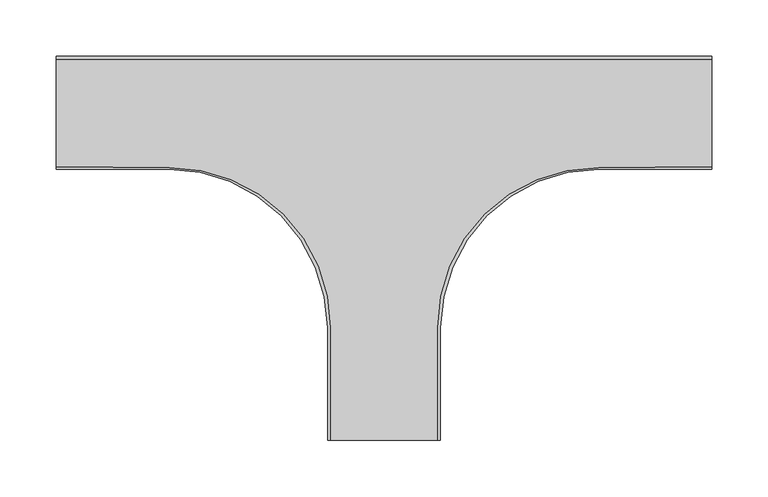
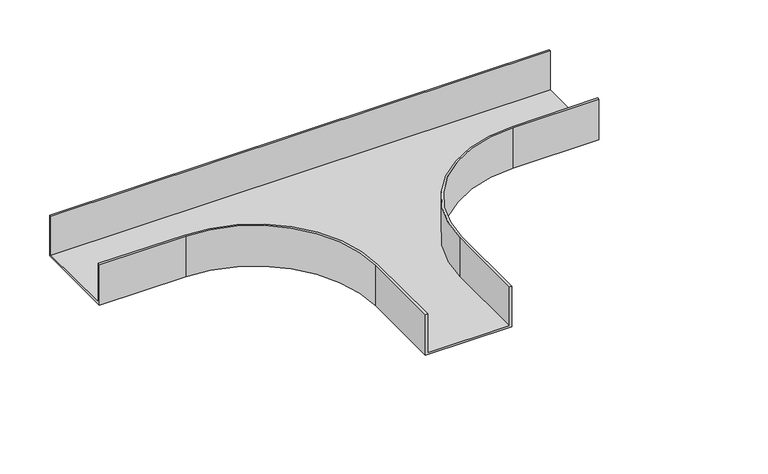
"""IFC4 building model written with IfcOpenShell, lengths in millimetres: cable carrier fitting geometry, BAKS_Tee_TKZ : TKZPH50."""

from ifc_helpers import new_model, si_unit, frame, origin, place, context, project, spatial, polyline, circle_curve, source, transform, mapped, element, save
from ifc_brep_helpers import plane_surface, cylinder_surface, revolved_surface, advanced_brep


def cable_carrier_fitting_cc7a867a(model_context):
    return source(origin(), model_context, "Body", "AdvancedBrep", [
        advanced_brep(
        [(-50.0, -190.0, 25.0), (-50.0, -290.0, 25.0), (-47.46, -290.0, 25.0), (-47.46, -190.0, 25.0), (-190.0, -48.503822, 25.0), (-290.0, -47.46, 25.0), (-290.0, -50.0, 25.0), (-190.0, -50.0, 25.0), (50.0, -190.0, 25.0), (190.0, -50.0, 25.0), (290.0, -50.0, 25.0), (290.0, -47.46, 25.0), (190.0, -48.503822, 25.0), (47.46, -190.0, 25.0), (47.46, -290.0, 25.0), (50.0, -290.0, 25.0), (290.0, 50.0, 25.0), (-290.0, 50.0, 25.0), (-290.0, 47.46, 25.0), (290.0, 47.46, 25.0), (-50.0, -190.0, -25.0), (-190.0, -50.0, -25.0), (-290.0, -50.0, -25.0), (-290.0, 50.0, -25.0), (290.0, 50.0, -25.0), (290.0, -50.0, -25.0), (190.0, -50.0, -25.0), (50.0, -190.0, -25.0), (50.0, -290.0, -25.0), (-50.0, -290.0, -25.0), (-50.0, -190.0, -22.46), (47.46, -290.0, -22.46), (-47.46, -290.0, -22.46), (-47.46, -190.0, -22.46), (-190.0, -48.503822, -22.46), (-290.0, -47.46, -22.46), (-290.0, 47.46, -22.46), (-190.0, -50.0, -22.46), (50.0, -190.0, -22.46), (190.0, -50.0, -22.46), (290.0, 47.46, -22.46), (290.0, -47.46, -22.46), (190.0, -48.503822, -22.46), (47.46, -190.0, -22.46)],
        [
            (0, 1),
            (1, 2),
            (2, 3),
            (3, 4, circle_curve(frame((-188.96, -190.0, 25.0), z_axis=(0.0, 0.0, 1.0), x_axis=(1.0, 0.0, 0.0)), 141.5)),
            (4, 5),
            (5, 6),
            (6, 7),
            (7, 0, circle_curve(frame((-190.0, -190.0, 25.0), z_axis=(0.0, 0.0, -1.0), x_axis=(1.0, 0.0, 0.0)), 140.0)),
            (8, 9, circle_curve(frame((190.0, -190.0, 25.0), z_axis=(0.0, 0.0, -1.0), x_axis=(1.0, 0.0, 0.0)), 140.0)),
            (9, 10),
            (10, 11),
            (11, 12),
            (12, 13, circle_curve(frame((188.96, -190.0, 25.0), z_axis=(0.0, 0.0, 1.0), x_axis=(1.0, 0.0, 0.0)), 141.5)),
            (13, 14),
            (14, 15),
            (15, 8),
            (16, 17),
            (17, 18),
            (18, 19),
            (19, 16),
            (20, 21, circle_curve(frame((-190.0, -190.0, -25.0), z_axis=(0.0, 0.0, 1.0), x_axis=(1.0, 0.0, 0.0)), 140.0)),
            (21, 22),
            (22, 23),
            (23, 24),
            (24, 25),
            (25, 26),
            (26, 27, circle_curve(frame((190.0, -190.0, -25.0), z_axis=(0.0, 0.0, 1.0), x_axis=(1.0, 0.0, 0.0)), 140.0)),
            (27, 28),
            (28, 29),
            (29, 20),
            (29, 1),
            (0, 30),
            (30, 20),
            (28, 15),
            (14, 31),
            (31, 32),
            (32, 2),
            (32, 33),
            (33, 3),
            (33, 34, circle_curve(frame((-188.96, -190.0, -22.46), z_axis=(0.0, 0.0, 1.0), x_axis=(1.0, 0.0, 0.0)), 141.5)),
            (34, 4),
            (34, 35),
            (35, 5),
            (35, 36),
            (36, 18),
            (17, 23),
            (22, 6),
            (21, 37),
            (37, 7),
            (8, 38),
            (38, 27),
            (26, 39),
            (39, 9),
            (25, 10),
            (24, 16),
            (19, 40),
            (40, 41),
            (41, 11),
            (41, 42),
            (42, 12),
            (42, 43, circle_curve(frame((188.96, -190.0, -22.46), z_axis=(0.0, 0.0, 1.0), x_axis=(1.0, 0.0, 0.0)), 141.5)),
            (43, 13),
            (43, 31),
            (36, 40),
        ],
        [
            plane_surface(frame((-50.0, -190.0, 25.0), z_axis=(0.0, 0.0, 1.0), x_axis=(0.0, -1.0, 0.0))),
            plane_surface(frame((-50.0, -190.0, -25.0), z_axis=(0.0, 0.0, -1.0), x_axis=(0.0, 1.0, 0.0))),
            plane_surface(frame((-50.0, -190.0, 25.0), z_axis=(-1.0, 0.0, 0.0), x_axis=(0.0, 0.0, -1.0))),
            plane_surface(frame((-50.0, -290.0, 25.0), z_axis=(0.0, -1.0, 0.0), x_axis=(0.0, 0.0, -1.0))),
            plane_surface(frame((-47.46, -290.0, 25.0), z_axis=(1.0, 0.0, 0.0), x_axis=(0.0, 0.0, -1.0))),
            cylinder_surface(frame((-188.96, -190.0, -25.0), z_axis=(0.0, 0.0, 1.0), x_axis=(1.0, 0.0, 0.0)), 141.5),
            plane_surface(frame((-190.0, -48.503822, 25.0), z_axis=(0.010437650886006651, 0.9999455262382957, 0.0), x_axis=(0.0, 0.0, -1.0))),
            plane_surface(frame((-290.0, -47.46, 25.0), z_axis=(-1.0, 0.0, 0.0), x_axis=(0.0, 0.0, -1.0))),
            plane_surface(frame((-290.0, -50.0, 25.0), z_axis=(0.0, -1.0, 0.0), x_axis=(0.0, 0.0, -1.0))),
            revolved_surface(polyline([(-50.0, -190.0, -25.0), (-50.0, -190.0, 25.0)]), (-190.0, -190.0, -25.0), (0.0, 0.0, -1.0)),
            revolved_surface(polyline([(330.0, -190.0, -25.0), (330.0, -190.0, 25.0)]), (190.0, -190.0, 0.0), (0.0, 0.0, -1.0)),
            plane_surface(frame((190.0, -50.0, 25.0), z_axis=(0.0, -1.0, 0.0), x_axis=(0.0, 0.0, -1.0))),
            plane_surface(frame((290.0, -50.0, 25.0), z_axis=(1.0, 0.0, 0.0), x_axis=(0.0, 0.0, -1.0))),
            plane_surface(frame((290.0, -47.46, 25.0), z_axis=(-0.010437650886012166, 0.9999455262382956, 0.0), x_axis=(0.0, 0.0, -1.0))),
            cylinder_surface(frame((188.96, -190.0, 0.0), z_axis=(0.0, 0.0, 1.0), x_axis=(1.0, 0.0, 0.0)), 141.5),
            plane_surface(frame((47.46, -190.0, 25.0), z_axis=(-1.0, 0.0, 0.0), x_axis=(0.0, 0.0, -1.0))),
            plane_surface(frame((50.0, -290.0, 25.0), z_axis=(1.0, 0.0, 0.0), x_axis=(0.0, 0.0, -1.0))),
            plane_surface(frame((290.0, 50.0, 25.0), z_axis=(0.0, 1.0, 0.0), x_axis=(0.0, 0.0, -1.0))),
            plane_surface(frame((-290.0, 47.46, 25.0), z_axis=(0.0, -1.0, 0.0), x_axis=(0.0, 0.0, -1.0))),
            plane_surface(frame((-50.0, -190.0, -22.46), z_axis=(0.0, 0.0, 1.0), x_axis=(0.0, -1.0, 0.0))),
        ],
        [
            (0, [[1, 2, 3, 4, 5, 6, 7, 8]]),
            (0, [[9, 10, 11, 12, 13, 14, 15, 16]]),
            (0, [[17, 18, 19, 20]]),
            (1, [[21, 22, 23, 24, 25, 26, 27, 28, 29, 30]]),
            (2, [[31, -1, 32, 33, -30]]),
            (3, [[-2, -31, -29, 34, -15, 35, 36, 37]]),
            (4, [[-3, -37, 38, 39]]),
            (5, [[-4, -39, 40, 41]]),
            (6, [[-5, -41, 42, 43]]),
            (7, [[-6, -43, 44, 45, -18, 46, -23, 47]]),
            (8, [[-7, -47, -22, 48, 49]]),
            (9, [[-8, -49, -48, -21, -33, -32]]),
            (10, [[-9, 50, 51, -27, 52, 53]]),
            (11, [[54, -10, -53, -52, -26]]),
            (12, [[-11, -54, -25, 55, -20, 56, 57, 58]]),
            (13, [[-12, -58, 59, 60]]),
            (14, [[-13, -60, 61, 62]]),
            (15, [[-14, -62, 63, -35]]),
            (16, [[-16, -34, -28, -51, -50]]),
            (17, [[-46, -17, -55, -24]]),
            (18, [[-19, -45, 64, -56]]),
            (19, [[-36, -63, -61, -59, -57, -64, -44, -42, -40, -38]]),
        ],
    ),
    ])


if __name__ == "__main__":
    model = new_model("IFC4")
    model_context = context("Model", 3, world=origin())
    ifc_project = project(units=[si_unit("LENGTHUNIT", "METRE", prefix="MILLI")], contexts=[model_context])
    site = spatial("IfcSite", under=ifc_project)
    building = spatial("IfcBuilding", under=site)
    placement = place(None, origin())
    cable_carrier_fitting_shape = cable_carrier_fitting_cc7a867a(model_context)
    element("IfcCableCarrierFitting", 1, ObjectType="BAKS_Tee_TKZ : TKZPH50", at=placement, inside=building, context=model_context, shape_type="MappedRepresentation", body=[
        mapped(cable_carrier_fitting_shape, transform((0.0, 0.0, 0.0), x_axis=(1.0, 0.0, 0.0), y_axis=(0.0, 1.0, 0.0), z_axis=(0.0, 0.0, 1.0))),
    ])
    save(model, "model.ifc")
